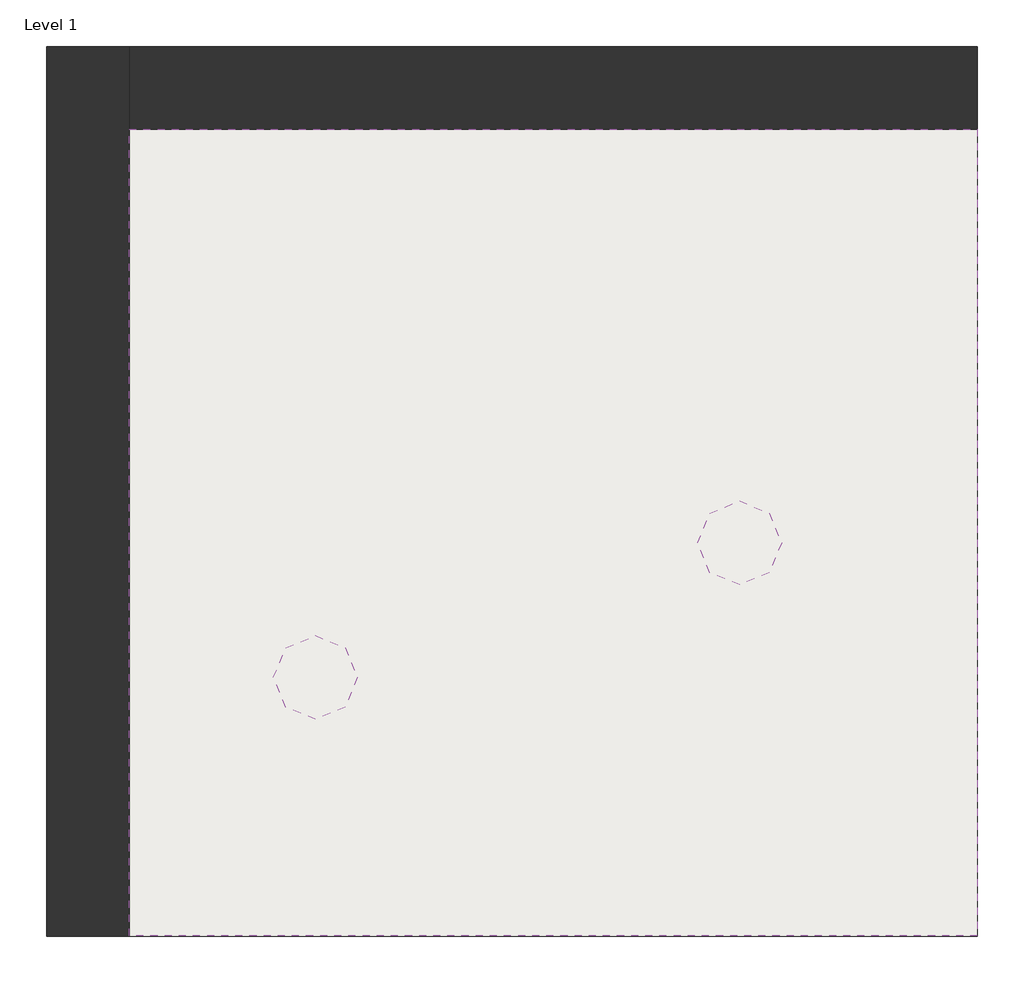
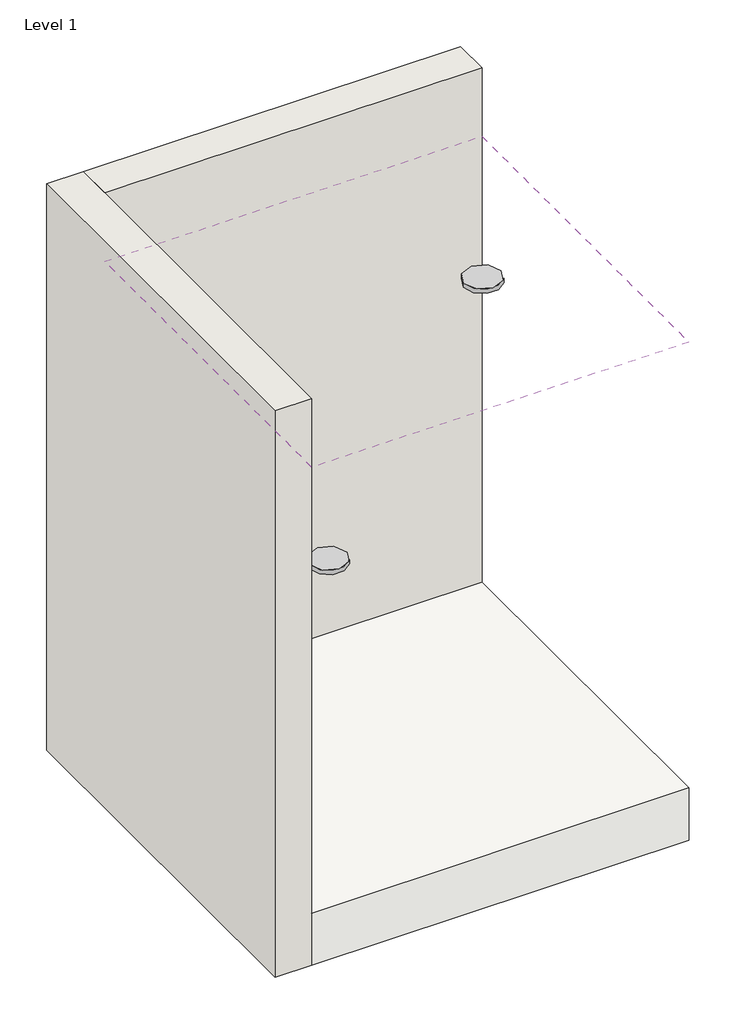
# One storey: 2 light fixtures, 2 walls, 1 covering, 1 slab.
"""IFC4 building model written with IfcOpenShell, lengths in millimetres."""

from ifc_helpers import new_model, si_unit, frame, origin, place, context, project, spatial, polyline, outline, extrude, faceted_brep, transform, mapped, element, save
from components import light_fixture_fd9dc849

model = new_model("IFC4")

# Units and contexts
model_context = context("Model", 3, world=origin())
ifc_project = project(units=[si_unit("LENGTHUNIT", "METRE", prefix="MILLI")], contexts=[model_context])

# Site, building, storey
site = spatial("IfcSite", under=ifc_project)
building = spatial("IfcBuilding", under=site)
storey = spatial("IfcBuildingStorey", under=building, Name="Level 1", Elevation=0.0)

# Covering
placement = place(None, origin())
element("IfcCovering", 1, ObjectType="Ceiling 2", at=placement, inside=storey, context=model_context, shape_type="SweptSolid", body=[
    extrude(outline(polyline([(4291.0676417, 3741.7404022), (4291.0676417, 1760.5404022), (2208.2676417, 1760.5404022), (2208.2676417, 3741.7404022), (4291.0676417, 3741.7404022)])), frame((0.0, 0.0, 2600.0), z_axis=(0.0, 0.0, 1.0), x_axis=(1.0, 0.0, 0.0)), (0.0, 0.0, 1.0), 25.4),
])

# Light fixtures
light_fixture_shape = light_fixture_fd9dc849(model_context)
element("IfcLightFixture", 2, ObjectType="LCMPD7R_SURFACE MOUNT BASIC : LCMPD7RW-T30", at=placement, inside=storey, context=model_context, shape_type="MappedRepresentation", body=[
    mapped(light_fixture_shape, transform((3706.8676417, 2759.5396904, 2600.0), x_axis=(1.0, 0.0, 0.0), y_axis=(0.0, 1.0, 0.0), z_axis=(0.0, 0.0, 1.0))),
])
element("IfcLightFixture", 3, ObjectType="LCMPD7R_SURFACE MOUNT BASIC : LCMPD7RW-T30", at=placement, inside=storey, context=model_context, shape_type="MappedRepresentation", body=[
    mapped(light_fixture_shape, transform((2665.4676417, 2429.3396904, 1524.0), x_axis=(1.0, 0.0, 0.0), y_axis=(0.0, 1.0, 0.0), z_axis=(0.0, 0.0, 1.0))),
])

# Slab
element("IfcSlab", 4, ObjectType="Floor 1", at=placement, inside=storey, context=model_context, shape_type="SweptSolid", body=[
    extrude(outline(polyline([(4291.0676417, 3741.7404022), (4291.0676417, 1760.5404022), (2208.2676417, 1760.5404022), (2208.2676417, 3741.7404022), (4291.0676417, 3741.7404022)])), frame((0.0, 0.0, -304.8), z_axis=(0.0, 0.0, 1.0), x_axis=(1.0, 0.0, 0.0)), (0.0, 0.0, 1.0), 304.8),
])

# Walls
element("IfcWall", 5, ObjectType="Wall 1", at=placement, inside=storey, context=model_context, shape_type="Brep", body=[
    faceted_brep([(2005.0676417, 3944.9404022, -304.8), (2005.0676417, 1760.5404022, -304.8), (2005.0676417, 1760.5404022, 3000.0), (2005.0676417, 3944.9404022, 3000.0), (2208.2676417, 3944.9404022, -304.8), (2208.2676417, 3944.9404022, 3000.0), (2208.2676417, 3741.7404022, 3000.0), (2208.2676417, 1760.5404022, 3000.0), (2208.2676417, 1760.5404022, -304.8), (2208.2676417, 3741.7404022, -304.8)], [[[0, 1, 2, 3]], [[4, 5, 6, 7, 8, 9]], [[1, 0, 4, 9, 8]], [[2, 1, 8, 7]], [[3, 2, 7, 6, 5]], [[0, 3, 5, 4]]]),
])
element("IfcWall", 6, ObjectType="Wall 1", at=placement, inside=storey, context=model_context, shape_type="SweptSolid", body=[
    extrude(outline(polyline([(4291.0676417, 3741.7404022), (2208.2676417, 3741.7404022), (2208.2676417, 3944.9404022), (4291.0676417, 3944.9404022), (4291.0676417, 3741.7404022)])), frame((0.0, 0.0, -304.8), z_axis=(0.0, 0.0, 1.0), x_axis=(1.0, 0.0, 0.0)), (0.0, 0.0, 1.0), 3304.8),
])

save(model, "model.ifc")
